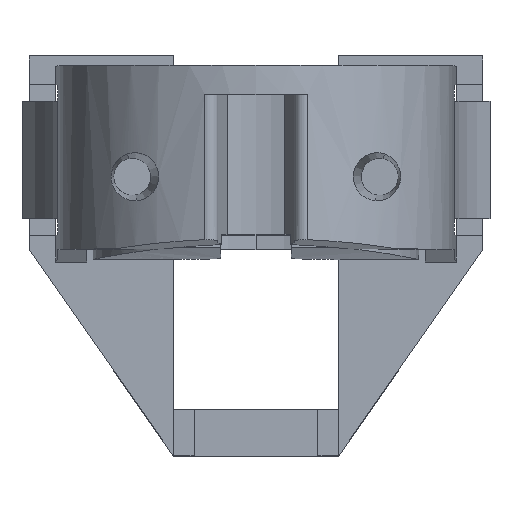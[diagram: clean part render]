
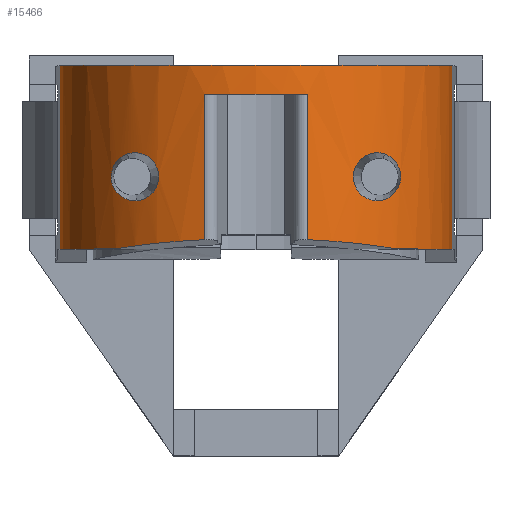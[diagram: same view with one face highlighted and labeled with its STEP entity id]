
A CAD part, top view. The second image highlights one B-rep face of the part: STEP entity #15466.
In plain terms, the highlighted cylindrical face has radius 9.5 mm (diameter 19 mm), a partial arc.
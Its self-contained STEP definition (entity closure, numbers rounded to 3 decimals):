
#8616=CARTESIAN_POINT(' ',(-9.499,0.,0.12));
#8617=VERTEX_POINT(' ',#8616);
#8631=CARTESIAN_POINT(' ',(-9.499,8.9,0.12));
#8636=DIRECTION(' ',(0.,-1.,0.));
#8641=VECTOR(' ',#8636,1.);
#8646=LINE(' ',#8631,#8641);
#8651=CARTESIAN_POINT(' ',(-9.499,8.9,0.12));
#8652=VERTEX_POINT(' ',#8651);
#8656=EDGE_CURVE(' ',#8652,#8617,#8646,.T.);
#11141=CARTESIAN_POINT(' ',(9.499,8.9,0.12));
#11142=VERTEX_POINT(' ',#11141);
#11156=CARTESIAN_POINT(' ',(9.499,8.9,0.12));
#11161=DIRECTION(' ',(0.,-1.,0.));
#11166=VECTOR(' ',#11161,1.);
#11171=LINE(' ',#11156,#11166);
#11176=CARTESIAN_POINT(' ',(9.499,0.,0.12));
#11177=VERTEX_POINT(' ',#11176);
#11181=EDGE_CURVE(' ',#11142,#11177,#11171,.T.);
#14606=CARTESIAN_POINT(' ',(0.,0.,0.));
#14611=DIRECTION(' ',(0.,1.,0.));
#14616=DIRECTION(' ',(0.716,0.,0.698));
#14621=AXIS2_PLACEMENT_3D(' ',#14606,#14611,#14616);
#14626=CIRCLE(' ',#14621,9.5);
#14631=CARTESIAN_POINT(' ',(6.798,0.,6.636));
#14632=VERTEX_POINT(' ',#14631);
#14636=EDGE_CURVE(' ',#14632,#11177,#14626,.T.);
#14781=CARTESIAN_POINT(' ',(-6.798,0.,6.636));
#14782=VERTEX_POINT(' ',#14781);
#14796=CARTESIAN_POINT(' ',(0.,0.,0.));
#14801=DIRECTION(' ',(0.,1.,0.));
#14806=DIRECTION(' ',(-1.,0.,0.013));
#14811=AXIS2_PLACEMENT_3D(' ',#14796,#14801,#14806);
#14816=CIRCLE(' ',#14811,9.5);
#14821=EDGE_CURVE(' ',#8617,#14782,#14816,.T.);
#14891=CARTESIAN_POINT(' ',(0.,8.9,0.));
#14896=DIRECTION(' ',(0.,-1.,0.));
#14901=DIRECTION(' ',(1.,0.,0.013));
#14906=AXIS2_PLACEMENT_3D(' ',#14891,#14896,#14901);
#14911=CYLINDRICAL_SURFACE(' ',#14906,9.5);
#14916=ORIENTED_EDGE(' ',*,*,#14821,.T.);
#14921=CARTESIAN_POINT(' ',(0.037,-1.139,0.178));
#14926=DIRECTION(' ',(0.,0.985,-0.174));
#14931=DIRECTION(' ',(-0.722,0.12,0.682));
#14936=AXIS2_PLACEMENT_3D(' ',#14921,#14926,#14931);
#14941=CIRCLE(' ',#14936,9.472);
#14946=CARTESIAN_POINT(' ',(-2.481,0.447,9.17));
#14947=VERTEX_POINT(' ',#14946);
#14951=EDGE_CURVE(' ',#14782,#14947,#14941,.T.);
#14956=ORIENTED_EDGE(' ',*,*,#14951,.T.);
#14961=CARTESIAN_POINT(' ',(-2.481,7.5,9.17));
#14966=DIRECTION(' ',(0.,-1.,0.));
#14971=VECTOR(' ',#14966,1.);
#14976=LINE(' ',#14961,#14971);
#14981=CARTESIAN_POINT(' ',(-2.481,7.5,9.17));
#14982=VERTEX_POINT(' ',#14981);
#14986=EDGE_CURVE(' ',#14982,#14947,#14976,.T.);
#14991=ORIENTED_EDGE(' ',*,*,#14986,.F.);
#14996=CARTESIAN_POINT(' ',(0.,7.5,0.));
#15001=DIRECTION(' ',(0.,1.,0.));
#15006=DIRECTION(' ',(-0.261,0.,0.965));
#15011=AXIS2_PLACEMENT_3D(' ',#14996,#15001,#15006);
#15016=CIRCLE(' ',#15011,9.5);
#15021=CARTESIAN_POINT(' ',(2.481,7.5,9.17));
#15022=VERTEX_POINT(' ',#15021);
#15026=EDGE_CURVE(' ',#14982,#15022,#15016,.T.);
#15031=ORIENTED_EDGE(' ',*,*,#15026,.T.);
#15036=CARTESIAN_POINT(' ',(2.481,7.5,9.17));
#15041=DIRECTION(' ',(0.,-1.,0.));
#15046=VECTOR(' ',#15041,1.);
#15051=LINE(' ',#15036,#15046);
#15056=CARTESIAN_POINT(' ',(2.481,0.447,9.17));
#15057=VERTEX_POINT(' ',#15056);
#15061=EDGE_CURVE(' ',#15022,#15057,#15051,.T.);
#15066=ORIENTED_EDGE(' ',*,*,#15061,.T.);
#15071=CARTESIAN_POINT(' ',(-0.037,-1.139,0.178));
#15076=DIRECTION(' ',(0.,-0.985,0.174));
#15081=DIRECTION(' ',(0.722,0.12,0.682));
#15086=AXIS2_PLACEMENT_3D(' ',#15071,#15076,#15081);
#15091=CIRCLE(' ',#15086,9.472);
#15096=EDGE_CURVE(' ',#14632,#15057,#15091,.T.);
#15101=ORIENTED_EDGE(' ',*,*,#15096,.F.);
#15106=ORIENTED_EDGE(' ',*,*,#14636,.T.);
#15111=ORIENTED_EDGE(' ',*,*,#11181,.F.);
#15116=CARTESIAN_POINT(' ',(0.,8.9,0.));
#15121=DIRECTION(' ',(0.,1.,0.));
#15126=DIRECTION(' ',(-1.,0.,0.013));
#15131=AXIS2_PLACEMENT_3D(' ',#15116,#15121,#15126);
#15136=CIRCLE(' ',#15131,9.5);
#15141=EDGE_CURVE(' ',#8652,#11142,#15136,.T.);
#15146=ORIENTED_EDGE(' ',*,*,#15141,.F.);
#15151=ORIENTED_EDGE(' ',*,*,#8656,.T.);
#15156=EDGE_LOOP(' ',(#14916,#14956,#14991,#15031,#15066,#15101,#15106,#15111,#15146,#15151));
#15161=FACE_OUTER_BOUND(' ',#15156,.T.);
#15166=CARTESIAN_POINT(' ',(5.769,2.34,7.548));
#15171=CARTESIAN_POINT(' ',(6.132,2.307,7.27));
#15176=CARTESIAN_POINT(' ',(6.499,2.447,6.939));
#15181=CARTESIAN_POINT(' ',(6.925,2.959,6.508));
#15186=CARTESIAN_POINT(' ',(7.045,3.276,6.374));
#15191=CARTESIAN_POINT(' ',(6.994,3.87,6.429));
#15196=CARTESIAN_POINT(' ',(6.874,4.116,6.561));
#15201=CARTESIAN_POINT(' ',(6.58,4.441,6.855));
#15206=CARTESIAN_POINT(' ',(6.411,4.548,7.015));
#15211=CARTESIAN_POINT(' ',(6.221,4.609,7.18));
#15216=B_SPLINE_CURVE_WITH_KNOTS(' ',3,(#15166,#15171,#15176,#15181,#15186,#15191,#15196,#15201,#15206,#15211),.UNSPECIFIED.,.F.,.U.,(4,2,2,2,4),(0.,0.358,0.607,0.815,1.),.UNSPECIFIED.);
#15221=CARTESIAN_POINT(' ',(5.769,2.34,7.548));
#15222=VERTEX_POINT(' ',#15221);
#15226=CARTESIAN_POINT(' ',(6.221,4.609,7.18));
#15227=VERTEX_POINT(' ',#15226);
#15231=EDGE_CURVE(' ',#15222,#15227,#15216,.T.);
#15236=ORIENTED_EDGE(' ',*,*,#15231,.F.);
#15241=CARTESIAN_POINT(' ',(6.221,4.609,7.18));
#15246=CARTESIAN_POINT(' ',(5.815,4.741,7.532));
#15251=CARTESIAN_POINT(' ',(5.321,4.635,7.879));
#15256=CARTESIAN_POINT(' ',(4.818,4.051,8.19));
#15261=CARTESIAN_POINT(' ',(4.709,3.753,8.251));
#15266=CARTESIAN_POINT(' ',(4.733,3.104,8.237));
#15271=CARTESIAN_POINT(' ',(4.915,2.778,8.135));
#15276=CARTESIAN_POINT(' ',(5.343,2.438,7.858));
#15281=CARTESIAN_POINT(' ',(5.559,2.359,7.708));
#15286=CARTESIAN_POINT(' ',(5.769,2.34,7.548));
#15291=B_SPLINE_CURVE_WITH_KNOTS(' ',3,(#15241,#15246,#15251,#15256,#15261,#15266,#15271,#15276,#15281,#15286),.UNSPECIFIED.,.F.,.U.,(4,2,2,2,4),(0.,0.358,0.566,0.815,1.),.UNSPECIFIED.);
#15296=EDGE_CURVE(' ',#15227,#15222,#15291,.T.);
#15301=ORIENTED_EDGE(' ',*,*,#15296,.F.);
#15306=EDGE_LOOP(' ',(#15236,#15301));
#15311=FACE_BOUND(' ',#15306,.T.);
#15316=CARTESIAN_POINT(' ',(-6.221,4.609,7.18));
#15321=CARTESIAN_POINT(' ',(-6.517,4.514,6.923));
#15326=CARTESIAN_POINT(' ',(-6.787,4.294,6.651));
#15331=CARTESIAN_POINT(' ',(-7.011,3.762,6.412));
#15336=CARTESIAN_POINT(' ',(-7.042,3.526,6.377));
#15341=CARTESIAN_POINT(' ',(-6.928,2.847,6.501));
#15346=CARTESIAN_POINT(' ',(-6.619,2.544,6.829));
#15351=CARTESIAN_POINT(' ',(-6.126,2.351,7.264));
#15356=CARTESIAN_POINT(' ',(-5.944,2.324,7.414));
#15361=CARTESIAN_POINT(' ',(-5.769,2.34,7.548));
#15366=B_SPLINE_CURVE_WITH_KNOTS(' ',3,(#15316,#15321,#15326,#15331,#15336,#15341,#15346,#15351,#15356,#15361),.UNSPECIFIED.,.F.,.U.,(4,2,2,2,4),(0.,0.299,0.471,0.83,1.),.UNSPECIFIED.);
#15371=CARTESIAN_POINT(' ',(-6.221,4.609,7.18));
#15372=VERTEX_POINT(' ',#15371);
#15376=CARTESIAN_POINT(' ',(-5.769,2.34,7.548));
#15377=VERTEX_POINT(' ',#15376);
#15381=EDGE_CURVE(' ',#15372,#15377,#15366,.T.);
#15386=ORIENTED_EDGE(' ',*,*,#15381,.F.);
#15391=CARTESIAN_POINT(' ',(-5.769,2.34,7.548));
#15396=CARTESIAN_POINT(' ',(-5.469,2.367,7.777));
#15401=CARTESIAN_POINT(' ',(-5.156,2.524,7.983));
#15406=CARTESIAN_POINT(' ',(-4.778,3.032,8.213));
#15411=CARTESIAN_POINT(' ',(-4.693,3.342,8.26));
#15416=CARTESIAN_POINT(' ',(-4.768,3.989,8.217));
#15421=CARTESIAN_POINT(' ',(-4.975,4.297,8.099));
#15426=CARTESIAN_POINT(' ',(-5.541,4.677,7.725));
#15431=CARTESIAN_POINT(' ',(-5.899,4.713,7.459));
#15436=CARTESIAN_POINT(' ',(-6.221,4.609,7.18));
#15441=B_SPLINE_CURVE_WITH_KNOTS(' ',3,(#15391,#15396,#15401,#15406,#15411,#15416,#15421,#15426,#15431,#15436),.UNSPECIFIED.,.F.,.U.,(4,2,2,2,4),(0.,0.249,0.456,0.705,1.),.UNSPECIFIED.);
#15446=EDGE_CURVE(' ',#15377,#15372,#15441,.T.);
#15451=ORIENTED_EDGE(' ',*,*,#15446,.F.);
#15456=EDGE_LOOP(' ',(#15386,#15451));
#15461=FACE_BOUND(' ',#15456,.T.);
#15466=ADVANCED_FACE(' ',(#15161,#15311,#15461),#14911,.T.);
